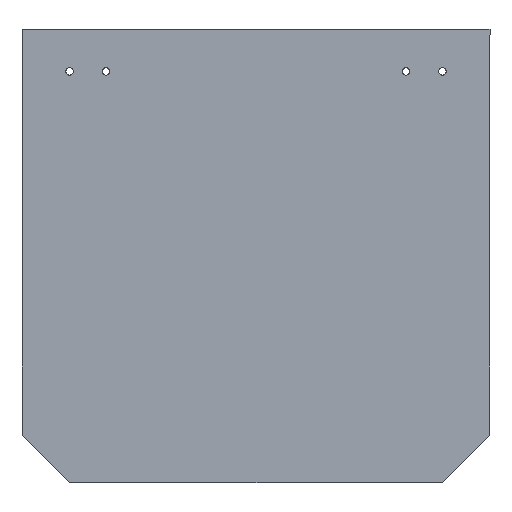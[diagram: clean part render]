
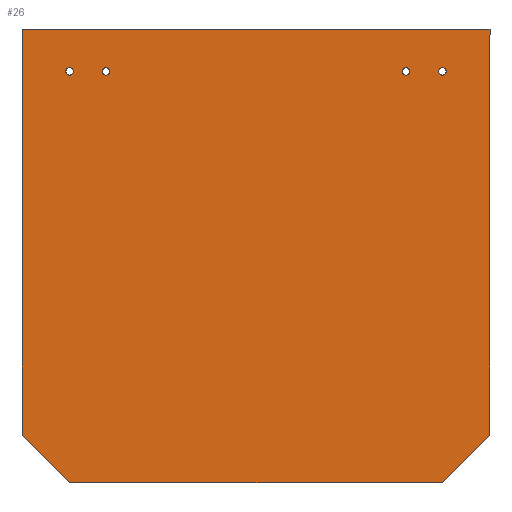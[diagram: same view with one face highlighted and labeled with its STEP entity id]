
A CAD part, top view. The second image highlights one B-rep face of the part: STEP entity #26.
In plain terms, the highlighted planar face has unit normal (0, 0, 1).
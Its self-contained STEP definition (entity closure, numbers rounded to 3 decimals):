
#14=FACE_BOUND('',#65,.T.);
#15=FACE_BOUND('',#66,.T.);
#16=FACE_BOUND('',#67,.T.);
#17=FACE_BOUND('',#68,.T.);
#26=ADVANCED_FACE('',(#45,#14,#15,#16,#17),#345,.T.);
#45=FACE_OUTER_BOUND('',#64,.T.);
#64=EDGE_LOOP('',(#101,#102,#103,#104,#105,#106));
#65=EDGE_LOOP('',(#107,#108));
#66=EDGE_LOOP('',(#109,#110));
#67=EDGE_LOOP('',(#111,#112));
#68=EDGE_LOOP('',(#113,#114));
#101=ORIENTED_EDGE('',*,*,#195,.T.);
#102=ORIENTED_EDGE('',*,*,#188,.F.);
#103=ORIENTED_EDGE('',*,*,#191,.F.);
#104=ORIENTED_EDGE('',*,*,#194,.F.);
#105=ORIENTED_EDGE('',*,*,#196,.T.);
#106=ORIENTED_EDGE('',*,*,#197,.T.);
#107=ORIENTED_EDGE('',*,*,#209,.T.);
#108=ORIENTED_EDGE('',*,*,#225,.T.);
#109=ORIENTED_EDGE('',*,*,#213,.T.);
#110=ORIENTED_EDGE('',*,*,#227,.T.);
#111=ORIENTED_EDGE('',*,*,#217,.T.);
#112=ORIENTED_EDGE('',*,*,#229,.T.);
#113=ORIENTED_EDGE('',*,*,#221,.T.);
#114=ORIENTED_EDGE('',*,*,#231,.T.);
#188=EDGE_CURVE('',#302,#299,#282,.T.);
#191=EDGE_CURVE('',#304,#302,#285,.T.);
#194=EDGE_CURVE('',#306,#304,#288,.T.);
#195=EDGE_CURVE('',#307,#299,#289,.T.);
#196=EDGE_CURVE('',#306,#308,#290,.T.);
#197=EDGE_CURVE('',#308,#307,#291,.T.);
#209=EDGE_CURVE('',#310,#309,#234,.T.);
#213=EDGE_CURVE('',#312,#311,#236,.T.);
#217=EDGE_CURVE('',#314,#313,#238,.T.);
#221=EDGE_CURVE('',#316,#315,#240,.T.);
#225=EDGE_CURVE('',#309,#310,#243,.T.);
#227=EDGE_CURVE('',#311,#312,#245,.T.);
#229=EDGE_CURVE('',#313,#314,#247,.T.);
#231=EDGE_CURVE('',#315,#316,#249,.T.);
#234=TRIMMED_CURVE($,#252,(#757),(#758),.T.,.CARTESIAN.);
#236=TRIMMED_CURVE($,#254,(#767),(#768),.T.,.CARTESIAN.);
#238=TRIMMED_CURVE($,#256,(#777),(#778),.T.,.CARTESIAN.);
#240=TRIMMED_CURVE($,#258,(#787),(#788),.T.,.CARTESIAN.);
#243=TRIMMED_CURVE($,#261,(#798),(#799),.T.,.CARTESIAN.);
#245=TRIMMED_CURVE($,#263,(#804),(#805),.T.,.CARTESIAN.);
#247=TRIMMED_CURVE($,#265,(#810),(#811),.T.,.CARTESIAN.);
#249=TRIMMED_CURVE($,#267,(#816),(#817),.T.,.CARTESIAN.);
#252=CIRCLE('',#456,3.25);
#254=CIRCLE('',#458,3.25);
#256=CIRCLE('',#460,3.25);
#258=CIRCLE('',#462,3.25);
#261=CIRCLE('',#465,3.25);
#263=CIRCLE('',#467,3.25);
#265=CIRCLE('',#469,3.25);
#267=CIRCLE('',#471,3.25);
#282=B_SPLINE_CURVE_WITH_KNOTS('',3,(#643,#644,#645,#646),.UNSPECIFIED.,
 .F.,.F.,(4,4),(0.,58.372),.UNSPECIFIED.);
#285=B_SPLINE_CURVE_WITH_KNOTS('',1,(#651,#652),.UNSPECIFIED.,.F.,.F.,(2,
2),(0.,323.85),.UNSPECIFIED.);
#288=B_SPLINE_CURVE_WITH_KNOTS('',3,(#659,#660,#661,#662),.UNSPECIFIED.,
 .F.,.F.,(4,4),(0.,58.372),.UNSPECIFIED.);
#289=B_SPLINE_CURVE_WITH_KNOTS('',1,(#663,#664),.UNSPECIFIED.,.F.,.F.,(2,
2),(0.,352.425),.UNSPECIFIED.);
#290=B_SPLINE_CURVE_WITH_KNOTS('',1,(#665,#666),.UNSPECIFIED.,.F.,.F.,(2,
2),(0.,352.425),.UNSPECIFIED.);
#291=B_SPLINE_CURVE_WITH_KNOTS('',1,(#667,#668,#669,#670,#671),
 .UNSPECIFIED.,.F.,.F.,(2,1,1,1,2),(0.,111.6,241.067,
249.,406.4),.UNSPECIFIED.);
#299=VERTEX_POINT('',#603);
#302=VERTEX_POINT('',#606);
#304=VERTEX_POINT('',#608);
#306=VERTEX_POINT('',#610);
#307=VERTEX_POINT('',#611);
#308=VERTEX_POINT('',#612);
#309=VERTEX_POINT('',#613);
#310=VERTEX_POINT('',#614);
#311=VERTEX_POINT('',#615);
#312=VERTEX_POINT('',#616);
#313=VERTEX_POINT('',#617);
#314=VERTEX_POINT('',#618);
#315=VERTEX_POINT('',#619);
#316=VERTEX_POINT('',#620);
#345=PLANE('',#441);
#441=AXIS2_PLACEMENT_3D('',#535,#479,$);
#456=AXIS2_PLACEMENT_3D($,#756,#495,#496);
#458=AXIS2_PLACEMENT_3D($,#766,#499,#500);
#460=AXIS2_PLACEMENT_3D($,#776,#503,#504);
#462=AXIS2_PLACEMENT_3D($,#786,#507,#508);
#465=AXIS2_PLACEMENT_3D($,#797,#513,#514);
#467=AXIS2_PLACEMENT_3D($,#803,#517,#518);
#469=AXIS2_PLACEMENT_3D($,#809,#521,#522);
#471=AXIS2_PLACEMENT_3D($,#815,#525,#526);
#479=DIRECTION('',(0.,0.,1.));
#495=DIRECTION('',(0.,0.,-1.));
#496=DIRECTION('',(1.,0.,0.));
#499=DIRECTION('',(0.,0.,-1.));
#500=DIRECTION('',(-1.,0.,0.));
#503=DIRECTION('',(0.,0.,-1.));
#504=DIRECTION('',(1.,0.,0.));
#507=DIRECTION('',(0.,0.,-1.));
#508=DIRECTION('',(-1.,0.,0.));
#513=DIRECTION('',(0.,0.,-1.));
#514=DIRECTION('',(-1.,0.,0.));
#517=DIRECTION('',(0.,0.,-1.));
#518=DIRECTION('',(1.,0.,0.));
#521=DIRECTION('',(0.,0.,-1.));
#522=DIRECTION('',(-1.,0.,0.));
#525=DIRECTION('',(0.,0.,-1.));
#526=DIRECTION('',(1.,0.,0.));
#535=CARTESIAN_POINT('',(-40.76,-39.49,12.7));
#603=CARTESIAN_POINT('',(0.,41.275,12.7));
#606=CARTESIAN_POINT('',(41.275,0.,12.7));
#608=CARTESIAN_POINT('',(365.125,0.,12.7));
#610=CARTESIAN_POINT('',(406.4,41.275,12.7));
#611=CARTESIAN_POINT('',(0.,393.7,12.7));
#612=CARTESIAN_POINT('',(406.4,393.7,12.7));
#613=CARTESIAN_POINT('',(38.025,357.145,12.7));
#614=CARTESIAN_POINT('',(44.525,357.145,12.7));
#615=CARTESIAN_POINT('',(76.275,357.145,12.7));
#616=CARTESIAN_POINT('',(69.775,357.145,12.7));
#617=CARTESIAN_POINT('',(330.125,357.145,12.7));
#618=CARTESIAN_POINT('',(336.625,357.145,12.7));
#619=CARTESIAN_POINT('',(368.375,357.145,12.7));
#620=CARTESIAN_POINT('',(361.875,357.145,12.7));
#643=CARTESIAN_POINT('',(41.275,0.,12.7));
#644=CARTESIAN_POINT('',(27.517,13.758,12.7));
#645=CARTESIAN_POINT('',(13.758,27.517,12.7));
#646=CARTESIAN_POINT('',(0.,41.275,12.7));
#651=CARTESIAN_POINT('',(365.125,0.,12.7));
#652=CARTESIAN_POINT('',(41.275,0.,12.7));
#659=CARTESIAN_POINT('',(406.4,41.275,12.7));
#660=CARTESIAN_POINT('',(392.642,27.517,12.7));
#661=CARTESIAN_POINT('',(378.883,13.758,12.7));
#662=CARTESIAN_POINT('',(365.125,0.,12.7));
#663=CARTESIAN_POINT('',(0.,393.7,12.7));
#664=CARTESIAN_POINT('',(0.,41.275,12.7));
#665=CARTESIAN_POINT('',(406.4,41.275,12.7));
#666=CARTESIAN_POINT('',(406.4,393.7,12.7));
#667=CARTESIAN_POINT('',(406.4,393.7,12.7));
#668=CARTESIAN_POINT('',(294.8,393.7,12.7));
#669=CARTESIAN_POINT('',(165.333,393.7,12.7));
#670=CARTESIAN_POINT('',(157.4,393.7,12.7));
#671=CARTESIAN_POINT('',(0.,393.7,12.7));
#756=CARTESIAN_POINT('',(41.275,357.145,12.7));
#757=CARTESIAN_POINT('',(44.525,357.145,12.7));
#758=CARTESIAN_POINT('',(38.025,357.145,12.7));
#766=CARTESIAN_POINT('',(73.025,357.145,12.7));
#767=CARTESIAN_POINT('',(69.775,357.145,12.7));
#768=CARTESIAN_POINT('',(76.275,357.145,12.7));
#776=CARTESIAN_POINT('',(333.375,357.145,12.7));
#777=CARTESIAN_POINT('',(336.625,357.145,12.7));
#778=CARTESIAN_POINT('',(330.125,357.145,12.7));
#786=CARTESIAN_POINT('',(365.125,357.145,12.7));
#787=CARTESIAN_POINT('',(361.875,357.145,12.7));
#788=CARTESIAN_POINT('',(368.375,357.145,12.7));
#797=CARTESIAN_POINT('',(41.275,357.145,12.7));
#798=CARTESIAN_POINT('',(38.025,357.145,12.7));
#799=CARTESIAN_POINT('',(44.525,357.145,12.7));
#803=CARTESIAN_POINT('',(73.025,357.145,12.7));
#804=CARTESIAN_POINT('',(76.275,357.145,12.7));
#805=CARTESIAN_POINT('',(69.775,357.145,12.7));
#809=CARTESIAN_POINT('',(333.375,357.145,12.7));
#810=CARTESIAN_POINT('',(330.125,357.145,12.7));
#811=CARTESIAN_POINT('',(336.625,357.145,12.7));
#815=CARTESIAN_POINT('',(365.125,357.145,12.7));
#816=CARTESIAN_POINT('',(368.375,357.145,12.7));
#817=CARTESIAN_POINT('',(361.875,357.145,12.7));
